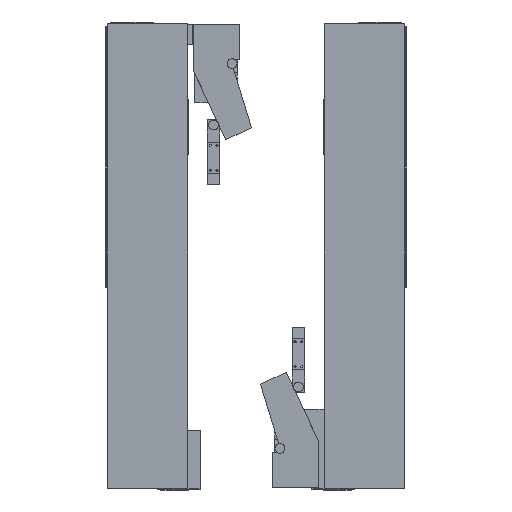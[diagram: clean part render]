
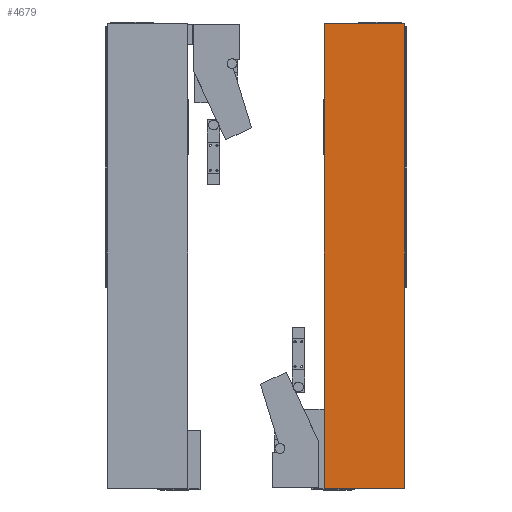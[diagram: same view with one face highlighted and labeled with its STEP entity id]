
A CAD part, top view. The second image highlights one B-rep face of the part: STEP entity #4679.
In plain terms, the highlighted planar face has unit normal (0, 0, 1).
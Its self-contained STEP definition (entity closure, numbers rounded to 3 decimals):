
#4679=ADVANCED_FACE('',(#8563),#8564,.T.);
#8563=FACE_OUTER_BOUND('',#14476,.T.);
#8564=PLANE('',#14477);
#14476=EDGE_LOOP('',(#17739,#17740,#17741,#17742));
#14477=AXIS2_PLACEMENT_3D('',#17743,#17744,#17745);
#17739=ORIENTED_EDGE('',*,*,#25716,.F.);
#17740=ORIENTED_EDGE('',*,*,#25713,.T.);
#17741=ORIENTED_EDGE('',*,*,#25719,.T.);
#17742=ORIENTED_EDGE('',*,*,#25720,.T.);
#17743=CARTESIAN_POINT('',(0.0,450.0,38.5));
#17744=DIRECTION('',(0.0,0.0,1.0));
#17745=DIRECTION('',(-1.0,0.,0.0));
#25713=EDGE_CURVE('',#29561,#29559,#29562,.T.);
#25716=EDGE_CURVE('',#29561,#29565,#29566,.T.);
#25719=EDGE_CURVE('',#29559,#29569,#29570,.T.);
#25720=EDGE_CURVE('',#29569,#29565,#29571,.T.);
#29559=VERTEX_POINT('',#32811);
#29561=VERTEX_POINT('',#32814);
#29562=LINE('',#32815,#32816);
#29565=VERTEX_POINT('',#32820);
#29566=LINE('',#32821,#32822);
#29569=VERTEX_POINT('',#32826);
#29570=LINE('',#32827,#32828);
#29571=LINE('',#32829,#32830);
#32811=CARTESIAN_POINT('',(131.4,896.9,38.5));
#32814=CARTESIAN_POINT('',(286.0,896.9,38.5));
#32815=CARTESIAN_POINT('',(-39.478,896.9,38.5));
#32816=VECTOR('',#37165,10.0);
#32820=CARTESIAN_POINT('',(286.0,3.1,38.5));
#32821=CARTESIAN_POINT('',(286.0,450.0,38.5));
#32822=VECTOR('',#37167,1.0);
#32826=CARTESIAN_POINT('',(131.4,3.1,38.5));
#32827=CARTESIAN_POINT('',(131.4,673.45,38.5));
#32828=VECTOR('',#37169,10.0);
#32829=CARTESIAN_POINT('',(-38.65,3.1,38.5));
#32830=VECTOR('',#37170,10.0);
#37165=DIRECTION('',(-1.0,0.,0.0));
#37167=DIRECTION('',(0.,-1.0,0.0));
#37169=DIRECTION('',(0.,-1.0,0.0));
#37170=DIRECTION('',(1.0,0.,0.0));
